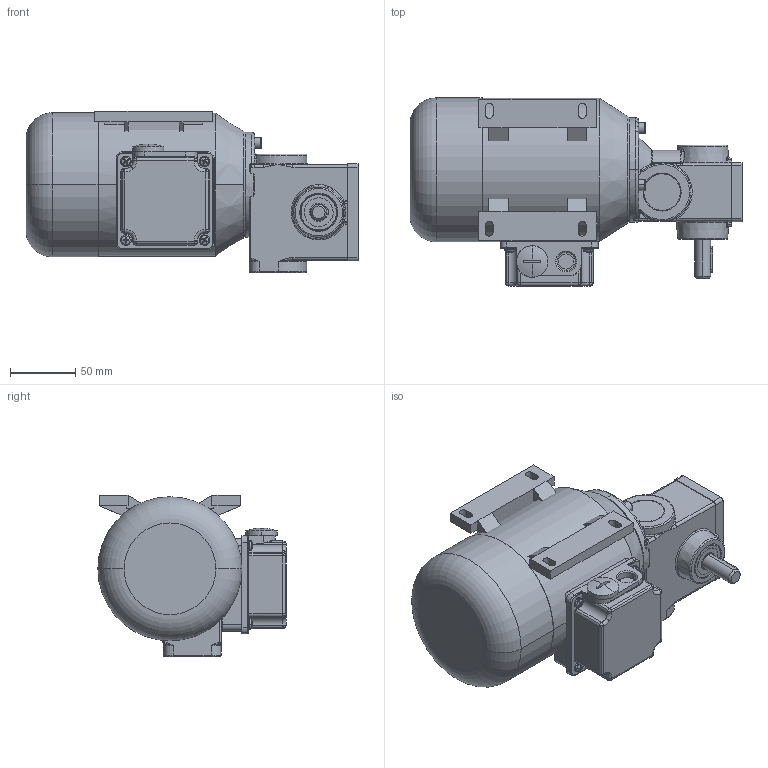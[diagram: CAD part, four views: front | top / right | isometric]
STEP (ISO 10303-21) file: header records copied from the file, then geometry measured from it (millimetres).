
FILE_DESCRIPTION (( 'STEP AP214' ), '1' );
FILE_NAME ('SN6_120W_2800Upm_Drehstrom-Motor_C.STEP', '2021-08-11T06:07:48', ( '' ), ( '' ), 'SwSTEP 2.0', 'SolidWorks 2019', '' );
FILE_SCHEMA (( 'AUTOMOTIVE_DESIGN' ));
Length unit declared in the file: millimetre
Products named in the file (12): 06-M-066 I 120W_2800Upm_B3; socket head cap screw_iso_ISO 4762 M3 x 10 - 10C; K_28x9.0; 06F-D-003_3D-Export; NBR_WDR_12x28x7; SN6_120W_2800Upm_Drehstrom-Motor_C; PF_A4x4x20; socket head cap screw_iso_ISO 4762 M5 x 16 - 16C; K_28x4.0; 06-G-001_3D_Export; 06-W-001_3D_Export; SN6_3D_Export
Assembly tree (17 placements, depth 3):
  SN6_120W_2800Upm_Drehstrom-Motor_C
    SN6_3D_Export
      06-G-001_3D_Export
      06F-D-003_3D-Export
      06-W-001_3D_Export
      PF_A4x4x20
      NBR_WDR_12x28x7
      K_28x9.0
      K_28x4.0  x2
      socket head cap screw_iso_ISO 4762 M5 x 16 - 16C  x3
      socket head cap screw_iso_ISO 4762 M3 x 10 - 10C  x4
    06-M-066 I 120W_2800Upm_B3
Bounding box: 253.5 x 143.7 x 123 mm (x, y, z)
Volume: 1964336.8 mm3; surface area: 181560.5 mm2
Topology: 19 solids, 19 shells, 1043 faces, 2551 edges, 1540 vertices
Faces by surface type: plane 324, cylinder 314, torus 169, cone 152, bspline 49, sphere 35
Entity records: 30202 total; most frequent: CARTESIAN_POINT 8101, DIRECTION 4803, ORIENTED_EDGE 4390, EDGE_CURVE 2195, AXIS2_PLACEMENT_3D 1984, VERTEX_POINT 1366, CIRCLE 1111, EDGE_LOOP 973
